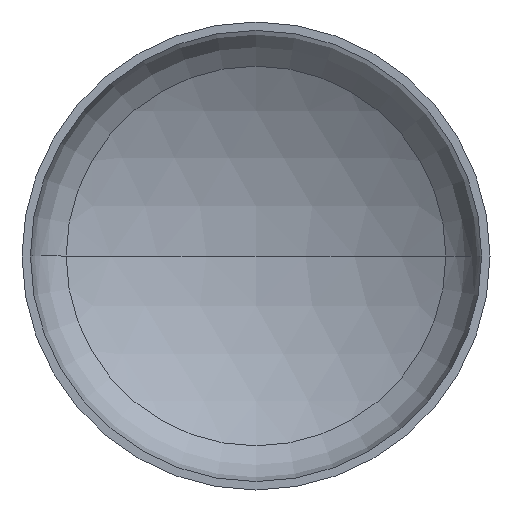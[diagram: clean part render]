
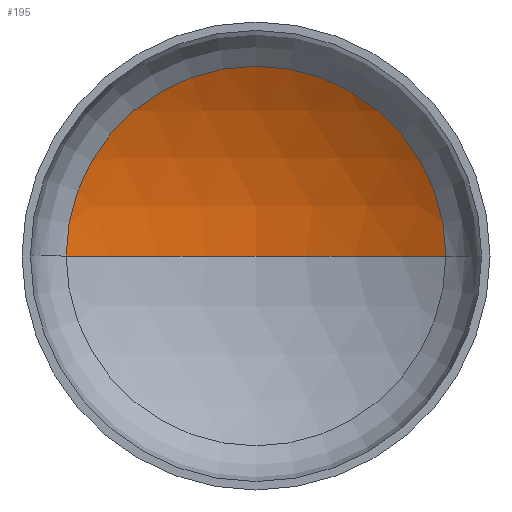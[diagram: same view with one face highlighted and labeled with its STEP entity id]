
A CAD part, front view. The second image highlights one B-rep face of the part: STEP entity #195.
In plain terms, the highlighted spherical face has radius 1600 mm.
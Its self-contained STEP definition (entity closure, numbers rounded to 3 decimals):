
#2 = AXIS2_PLACEMENT_3D ( 'NONE', #291, #152, #151 ) ;
#3 = VERTEX_POINT ( 'NONE', #99 ) ;
#14 = AXIS2_PLACEMENT_3D ( 'NONE', #225, #224, #218 ) ;
#16 = AXIS2_PLACEMENT_3D ( 'NONE', #208, #202, #199 ) ;
#36 = AXIS2_PLACEMENT_3D ( 'NONE', #254, #410, #263 ) ;
#90 = CIRCLE ( 'NONE', #2, 1600. ) ;
#94 = EDGE_LOOP ( 'NONE', ( #115, #154, #206 ) ) ;
#99 = CARTESIAN_POINT ( 'NONE',  ( 811.163, 377.208, 0. ) ) ;
#115 = ORIENTED_EDGE ( 'NONE', *, *, #388, .F. ) ;
#150 = VERTEX_POINT ( 'NONE', #378 ) ;
#151 = DIRECTION ( 'NONE',  ( 1., 0., 0. ) ) ;
#152 = DIRECTION ( 'NONE',  ( 0., 0., 1. ) ) ;
#154 = ORIENTED_EDGE ( 'NONE', *, *, #343, .T. ) ;
#171 = VERTEX_POINT ( 'NONE', #238 ) ;
#195 = ADVANCED_FACE ( 'NONE', ( #369 ), #221, .F. ) ;
#196 = CIRCLE ( 'NONE', #14, 1600. ) ;
#199 = DIRECTION ( 'NONE',  ( 1., 0., 0. ) ) ;
#202 = DIRECTION ( 'NONE',  ( 0., -1., 0. ) ) ;
#206 = ORIENTED_EDGE ( 'NONE', *, *, #339, .T. ) ;
#208 = CARTESIAN_POINT ( 'NONE',  ( 0., 377.208, 0. ) ) ;
#218 = DIRECTION ( 'NONE',  ( -1., 0., 0. ) ) ;
#221 = SPHERICAL_SURFACE ( 'NONE', #36, 1600. ) ;
#224 = DIRECTION ( 'NONE',  ( 0., 0., -1. ) ) ;
#225 = CARTESIAN_POINT ( 'NONE',  ( 0., -1001.928, 0. ) ) ;
#238 = CARTESIAN_POINT ( 'NONE',  ( -811.163, 377.208, 0. ) ) ;
#254 = CARTESIAN_POINT ( 'NONE',  ( 0., -1001.928, 0. ) ) ;
#263 = DIRECTION ( 'NONE',  ( -1., 0., 0. ) ) ;
#291 = CARTESIAN_POINT ( 'NONE',  ( 0., -1001.928, 0. ) ) ;
#339 = EDGE_CURVE ( 'NONE', #3, #171, #406, .T. ) ;
#343 = EDGE_CURVE ( 'NONE', #150, #3, #196, .T. ) ;
#369 = FACE_OUTER_BOUND ( 'NONE', #94, .T. ) ;
#378 = CARTESIAN_POINT ( 'NONE',  ( 0., 598.072, 0. ) ) ;
#388 = EDGE_CURVE ( 'NONE', #150, #171, #90, .T. ) ;
#406 = CIRCLE ( 'NONE', #16, 811.163 ) ;
#410 = DIRECTION ( 'NONE',  ( 0., 0., -1. ) ) ;
